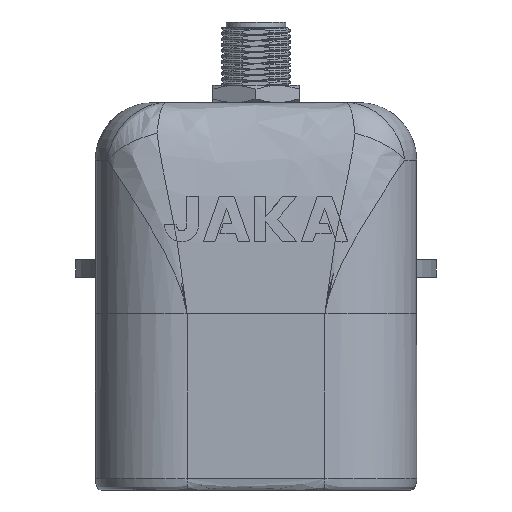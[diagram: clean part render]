
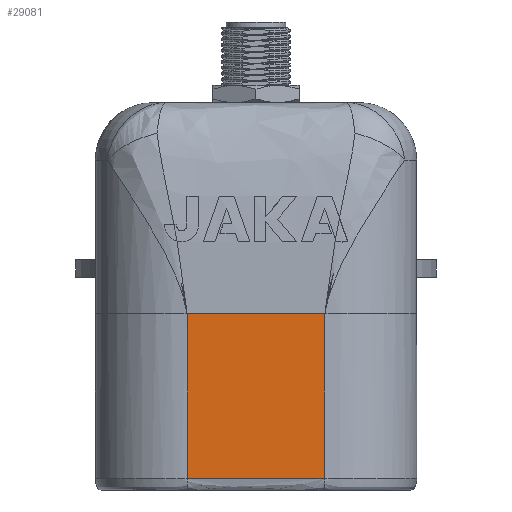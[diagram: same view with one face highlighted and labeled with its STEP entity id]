
A CAD part, front view. The second image highlights one B-rep face of the part: STEP entity #29081.
In plain terms, the highlighted planar face has unit normal (0, -1, 0).
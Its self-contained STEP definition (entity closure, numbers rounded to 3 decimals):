
#523 = PLANE ( 'NONE',  #3843 ) ;
#801 = FACE_OUTER_BOUND ( 'NONE', #16387, .T. ) ;
#950 = VECTOR ( 'NONE', #18031, 1000. ) ;
#1490 = ORIENTED_EDGE ( 'NONE', *, *, #12732, .T. ) ;
#2854 = DIRECTION ( 'NONE',  ( 0., -1., 0. ) ) ;
#3843 = AXIS2_PLACEMENT_3D ( 'NONE', #7444, #2854, #19179 ) ;
#6543 = CARTESIAN_POINT ( 'NONE',  ( 4., -45., -28.75 ) ) ;
#6728 = LINE ( 'NONE', #22258, #12229 ) ;
#6975 = CARTESIAN_POINT ( 'NONE',  ( 12., -45., -28.75 ) ) ;
#7444 = CARTESIAN_POINT ( 'NONE',  ( 0., -45., 0. ) ) ;
#8275 = DIRECTION ( 'NONE',  ( 1., 0., 0. ) ) ;
#8563 = VECTOR ( 'NONE', #13277, 1000. ) ;
#9052 = ORIENTED_EDGE ( 'NONE', *, *, #24572, .T. ) ;
#9586 = VERTEX_POINT ( 'NONE', #6975 ) ;
#11134 = CARTESIAN_POINT ( 'NONE',  ( -12., -45., -28.75 ) ) ;
#11367 = CARTESIAN_POINT ( 'NONE',  ( 12., -45., 0. ) ) ;
#12229 = VECTOR ( 'NONE', #8275, 1000. ) ;
#12732 = EDGE_CURVE ( 'NONE', #21723, #23844, #15883, .T. ) ;
#13277 = DIRECTION ( 'NONE',  ( 0., 0., -1. ) ) ;
#15560 = CARTESIAN_POINT ( 'NONE',  ( -12., -45., 0. ) ) ;
#15883 = LINE ( 'NONE', #15560, #950 ) ;
#16387 = EDGE_LOOP ( 'NONE', ( #1490, #9052, #23104, #17804 ) ) ;
#16875 = EDGE_CURVE ( 'NONE', #25946, #9586, #26443, .T. ) ;
#17804 = ORIENTED_EDGE ( 'NONE', *, *, #27326, .F. ) ;
#18031 = DIRECTION ( 'NONE',  ( 0., 0., -1. ) ) ;
#19179 = DIRECTION ( 'NONE',  ( 0., 0., 1. ) ) ;
#21723 = VERTEX_POINT ( 'NONE', #28404 ) ;
#22258 = CARTESIAN_POINT ( 'NONE',  ( 11.8, -45., 0. ) ) ;
#22693 = CARTESIAN_POINT ( 'NONE',  ( -12., -45., -28.75 ) ) ;
#22859 = CARTESIAN_POINT ( 'NONE',  ( 12., -45., -28.75 ) ) ;
#23104 = ORIENTED_EDGE ( 'NONE', *, *, #16875, .F. ) ;
#23844 = VERTEX_POINT ( 'NONE', #22693 ) ;
#24572 = EDGE_CURVE ( 'NONE', #23844, #9586, #25027, .T. ) ;
#25027 = B_SPLINE_CURVE_WITH_KNOTS ( 'NONE', 3,
 ( #11134, #27421, #6543, #22859 ),
 .UNSPECIFIED., .F., .F.,
 ( 4, 4 ),
 ( 0., 1. ),
 .UNSPECIFIED. ) ;
#25946 = VERTEX_POINT ( 'NONE', #11367 ) ;
#26443 = LINE ( 'NONE', #27122, #8563 ) ;
#27122 = CARTESIAN_POINT ( 'NONE',  ( 12., -45., 0. ) ) ;
#27326 = EDGE_CURVE ( 'NONE', #21723, #25946, #6728, .T. ) ;
#27421 = CARTESIAN_POINT ( 'NONE',  ( -4., -45., -28.75 ) ) ;
#28404 = CARTESIAN_POINT ( 'NONE',  ( -12., -45., 0. ) ) ;
#29081 = ADVANCED_FACE ( 'NONE', ( #801 ), #523, .T. ) ;
